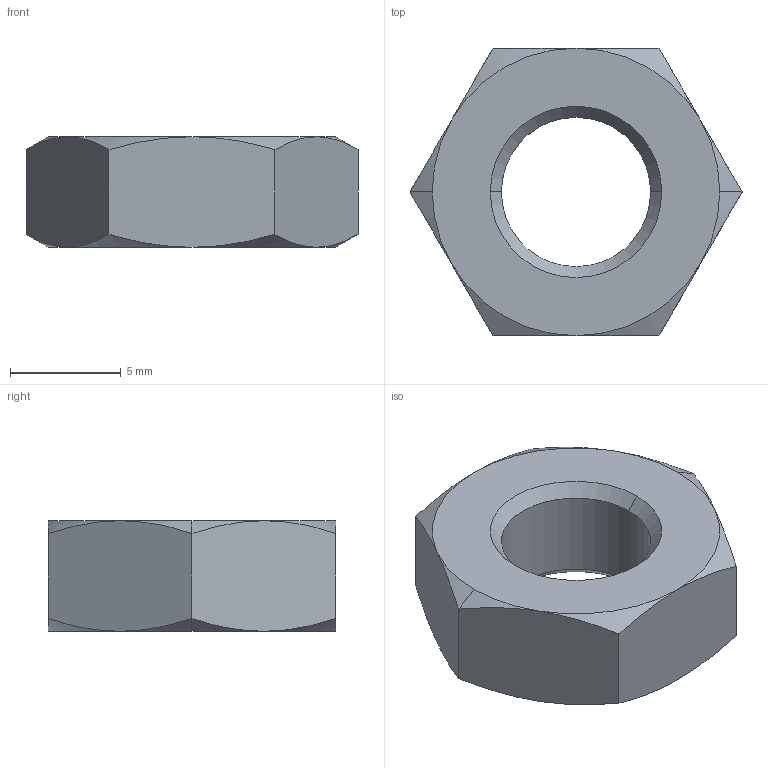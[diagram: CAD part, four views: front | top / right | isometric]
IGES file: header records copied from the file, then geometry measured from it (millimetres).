
Global section: file name: No Iges File Name specified; native system: AutoDesk Inventor R6.0; preprocessor: AutoDesk Inventor Iges Exporter R6.0; author: No Author specified; organization: No Organization specified; date: 20030408.082737; units: millimetre
Bounding box: 15.01 x 13 x 5 mm (x, y, z)
Volume: 542.1 mm3; surface area: 526.5 mm2
Topology: 1 solids, 1 shells, 30 faces, 64 edges, 36 vertices
Faces by surface type: cone 16, plane 8, bspline 4, revolution 2
